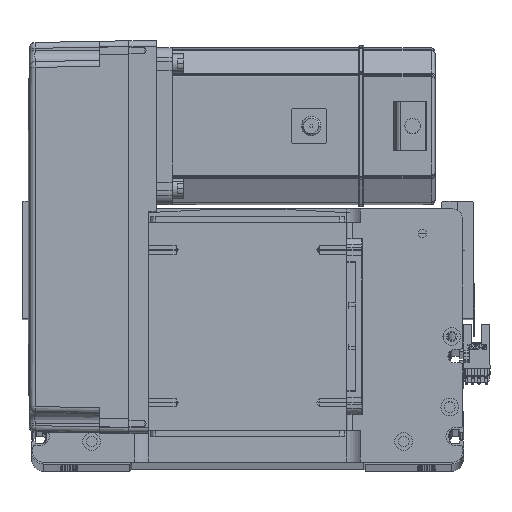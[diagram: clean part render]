
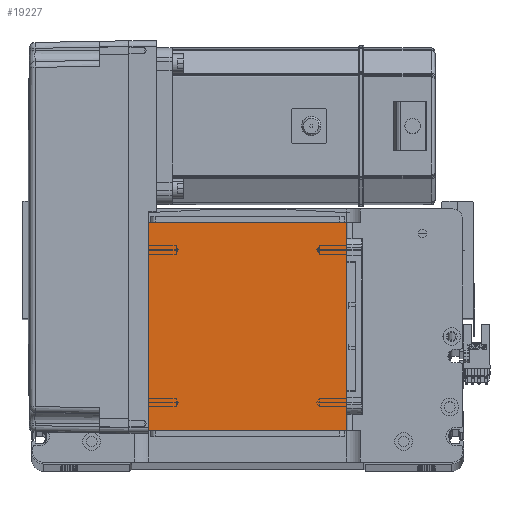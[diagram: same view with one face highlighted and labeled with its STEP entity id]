
A CAD part, top view. The second image highlights one B-rep face of the part: STEP entity #19227.
In plain terms, the highlighted planar face has unit normal (0, 0, 1).
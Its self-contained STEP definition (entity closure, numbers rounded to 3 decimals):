
#530 = VERTEX_POINT ( 'NONE', #25453 ) ;
#2315 = AXIS2_PLACEMENT_3D ( 'NONE', #46159, #54974, #37162 ) ;
#2924 = PLANE ( 'NONE',  #2315 ) ;
#7761 = EDGE_LOOP ( 'NONE', ( #13211, #46162, #35435, #22655 ) ) ;
#8902 = EDGE_CURVE ( 'NONE', #530, #32113, #50751, .T. ) ;
#10981 = VECTOR ( 'NONE', #43184, 1000. ) ;
#13211 = ORIENTED_EDGE ( 'NONE', *, *, #8902, .T. ) ;
#16712 = CARTESIAN_POINT ( 'NONE',  ( 50.5, 122., 115. ) ) ;
#19227 = ADVANCED_FACE ( 'NONE', ( #37201 ), #2924, .T. ) ;
#19856 = CARTESIAN_POINT ( 'NONE',  ( -50.5, 122., 115. ) ) ;
#20799 = CARTESIAN_POINT ( 'NONE',  ( -50.5, 122., 115. ) ) ;
#22502 = VECTOR ( 'NONE', #37128, 1000. ) ;
#22609 = EDGE_CURVE ( 'NONE', #50360, #32004, #23677, .T. ) ;
#22655 = ORIENTED_EDGE ( 'NONE', *, *, #38317, .T. ) ;
#23677 = LINE ( 'NONE', #51825, #10981 ) ;
#25453 = CARTESIAN_POINT ( 'NONE',  ( -50.5, 122., 115. ) ) ;
#28440 = LINE ( 'NONE', #20799, #47239 ) ;
#32004 = VERTEX_POINT ( 'NONE', #16712 ) ;
#32113 = VERTEX_POINT ( 'NONE', #47425 ) ;
#35435 = ORIENTED_EDGE ( 'NONE', *, *, #22609, .T. ) ;
#37128 = DIRECTION ( 'NONE',  ( 0., -1., 0. ) ) ;
#37162 = DIRECTION ( 'NONE',  ( 1., 0., 0. ) ) ;
#37201 = FACE_OUTER_BOUND ( 'NONE', #7761, .T. ) ;
#37412 = CARTESIAN_POINT ( 'NONE',  ( 50.5, 16., 115. ) ) ;
#38317 = EDGE_CURVE ( 'NONE', #32004, #530, #28440, .T. ) ;
#38341 = CARTESIAN_POINT ( 'NONE',  ( -50.5, 16., 115. ) ) ;
#41499 = LINE ( 'NONE', #38341, #44208 ) ;
#42424 = EDGE_CURVE ( 'NONE', #32113, #50360, #41499, .T. ) ;
#42824 = DIRECTION ( 'NONE',  ( 1., 0., 0. ) ) ;
#43184 = DIRECTION ( 'NONE',  ( 0., 1., 0. ) ) ;
#44208 = VECTOR ( 'NONE', #42824, 1000. ) ;
#46159 = CARTESIAN_POINT ( 'NONE',  ( 0., 0., 115. ) ) ;
#46162 = ORIENTED_EDGE ( 'NONE', *, *, #42424, .T. ) ;
#47239 = VECTOR ( 'NONE', #50296, 1000. ) ;
#47425 = CARTESIAN_POINT ( 'NONE',  ( -50.5, 16., 115. ) ) ;
#50296 = DIRECTION ( 'NONE',  ( -1., 0., 0. ) ) ;
#50360 = VERTEX_POINT ( 'NONE', #37412 ) ;
#50751 = LINE ( 'NONE', #19856, #22502 ) ;
#51825 = CARTESIAN_POINT ( 'NONE',  ( 50.5, 122., 115. ) ) ;
#54974 = DIRECTION ( 'NONE',  ( 0., 0., 1. ) ) ;
